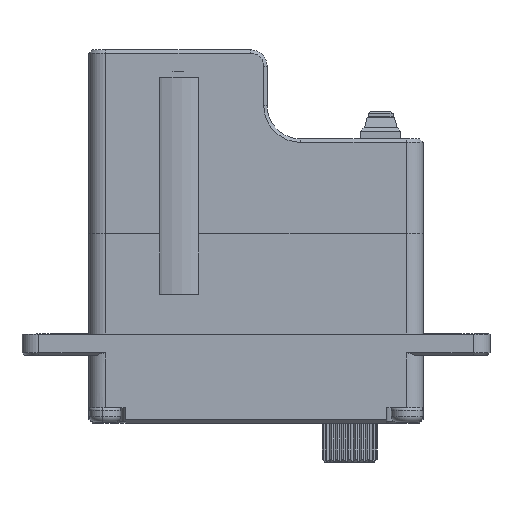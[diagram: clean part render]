
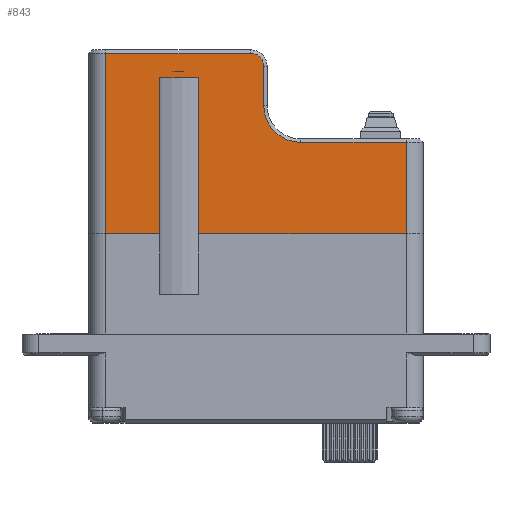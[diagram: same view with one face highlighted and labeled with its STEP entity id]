
A CAD part, left-side view. The second image highlights one B-rep face of the part: STEP entity #843.
In plain terms, the highlighted planar face has unit normal (-1, 0, 0).
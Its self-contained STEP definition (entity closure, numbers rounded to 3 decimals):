
#64 = DIRECTION ( 'NONE',  ( 0., 1., 0. ) ) ;
#422 = DIRECTION ( 'NONE',  ( -1., 0., 0. ) ) ;
#480 = EDGE_CURVE ( 'NONE', #11991, #1186, #16972, .T. ) ;
#524 = DIRECTION ( 'NONE',  ( 0., -1., 0. ) ) ;
#635 = LINE ( 'NONE', #16722, #1736 ) ;
#843 = ADVANCED_FACE ( 'NONE', ( #9729 ), #1145, .T. ) ;
#1008 = VECTOR ( 'NONE', #3597, 1000. ) ;
#1045 = VERTEX_POINT ( 'NONE', #1506 ) ;
#1145 = PLANE ( 'NONE',  #12586 ) ;
#1186 = VERTEX_POINT ( 'NONE', #11357 ) ;
#1253 = ORIENTED_EDGE ( 'NONE', *, *, #2329, .T. ) ;
#1330 = EDGE_CURVE ( 'NONE', #13083, #7219, #15437, .T. ) ;
#1467 = CARTESIAN_POINT ( 'NONE',  ( -97.316, -22.931, 22.06 ) ) ;
#1506 = CARTESIAN_POINT ( 'NONE',  ( -97.316, -12.081, 14.06 ) ) ;
#1598 = CARTESIAN_POINT ( 'NONE',  ( -97.316, -7.581, 22.06 ) ) ;
#1736 = VECTOR ( 'NONE', #4179, 1000. ) ;
#1795 = ORIENTED_EDGE ( 'NONE', *, *, #14769, .T. ) ;
#1888 = ORIENTED_EDGE ( 'NONE', *, *, #12556, .T. ) ;
#1907 = DIRECTION ( 'NONE',  ( 0., -1., 0. ) ) ;
#2006 = CARTESIAN_POINT ( 'NONE',  ( -97.316, -8.781, 17.36 ) ) ;
#2108 = CARTESIAN_POINT ( 'NONE',  ( -97.316, -21.581, 14.06 ) ) ;
#2329 = EDGE_CURVE ( 'NONE', #13748, #13862, #8375, .T. ) ;
#2352 = EDGE_CURVE ( 'NONE', #1045, #11991, #13160, .T. ) ;
#2389 = VECTOR ( 'NONE', #524, 1000. ) ;
#2995 = CARTESIAN_POINT ( 'NONE',  ( -97.316, 0.564, 5.86 ) ) ;
#3277 = CARTESIAN_POINT ( 'NONE',  ( -97.316, -22.931, 14.06 ) ) ;
#3597 = DIRECTION ( 'NONE',  ( 0., 0., 1. ) ) ;
#3638 = DIRECTION ( 'NONE',  ( 1., 0., 0. ) ) ;
#4155 = ORIENTED_EDGE ( 'NONE', *, *, #8153, .T. ) ;
#4174 = VECTOR ( 'NONE', #11303, 1000. ) ;
#4179 = DIRECTION ( 'NONE',  ( 0., 0., 1. ) ) ;
#4211 = ORIENTED_EDGE ( 'NONE', *, *, #4683, .T. ) ;
#4683 = EDGE_CURVE ( 'NONE', #10364, #13748, #7136, .T. ) ;
#5297 = AXIS2_PLACEMENT_3D ( 'NONE', #6462, #3638, #17350 ) ;
#5831 = CARTESIAN_POINT ( 'NONE',  ( -97.316, 0.564, 19.86 ) ) ;
#5896 = EDGE_CURVE ( 'NONE', #12951, #17079, #6662, .T. ) ;
#6462 = CARTESIAN_POINT ( 'NONE',  ( -97.316, -12.081, 17.36 ) ) ;
#6662 = LINE ( 'NONE', #1467, #14523 ) ;
#6748 = VECTOR ( 'NONE', #1907, 1000. ) ;
#7136 = LINE ( 'NONE', #17194, #2389 ) ;
#7219 = VERTEX_POINT ( 'NONE', #11773 ) ;
#7795 = CIRCLE ( 'NONE', #14948, 1.2 ) ;
#7830 = LINE ( 'NONE', #8842, #6748 ) ;
#7861 = ORIENTED_EDGE ( 'NONE', *, *, #11894, .T. ) ;
#7920 = ORIENTED_EDGE ( 'NONE', *, *, #5896, .T. ) ;
#8153 = EDGE_CURVE ( 'NONE', #1186, #12951, #7795, .T. ) ;
#8375 = LINE ( 'NONE', #14808, #1008 ) ;
#8430 = VECTOR ( 'NONE', #14450, 1000. ) ;
#8633 = DIRECTION ( 'NONE',  ( 0., 0., 1. ) ) ;
#8685 = ORIENTED_EDGE ( 'NONE', *, *, #12469, .T. ) ;
#8723 = CARTESIAN_POINT ( 'NONE',  ( -97.316, -7.581, 20.86 ) ) ;
#8814 = DIRECTION ( 'NONE',  ( 0., 1., 0. ) ) ;
#8842 = CARTESIAN_POINT ( 'NONE',  ( -97.316, -22.931, 19.86 ) ) ;
#9582 = ORIENTED_EDGE ( 'NONE', *, *, #1330, .T. ) ;
#9606 = EDGE_LOOP ( 'NONE', ( #8685, #1888, #17235, #13411, #4155, #7920, #1795, #4211, #1253, #14405, #9582, #7861 ) ) ;
#9729 = FACE_OUTER_BOUND ( 'NONE', #9606, .T. ) ;
#10364 = VERTEX_POINT ( 'NONE', #16398 ) ;
#10903 = VERTEX_POINT ( 'NONE', #2108 ) ;
#11303 = DIRECTION ( 'NONE',  ( 0., -1., 0. ) ) ;
#11357 = CARTESIAN_POINT ( 'NONE',  ( -97.316, -8.781, 20.86 ) ) ;
#11526 = LINE ( 'NONE', #3277, #15418 ) ;
#11773 = CARTESIAN_POINT ( 'NONE',  ( -97.316, -2.936, 5.86 ) ) ;
#11894 = EDGE_CURVE ( 'NONE', #7219, #14766, #14813, .T. ) ;
#11991 = VERTEX_POINT ( 'NONE', #2006 ) ;
#12260 = DIRECTION ( 'NONE',  ( 0., 1., 0. ) ) ;
#12377 = DIRECTION ( 'NONE',  ( -1., 0., 0. ) ) ;
#12469 = EDGE_CURVE ( 'NONE', #14766, #10903, #635, .T. ) ;
#12543 = CARTESIAN_POINT ( 'NONE',  ( -97.316, 5.419, 10.595 ) ) ;
#12556 = EDGE_CURVE ( 'NONE', #10903, #1045, #11526, .T. ) ;
#12586 = AXIS2_PLACEMENT_3D ( 'NONE', #14932, #12377, #12260 ) ;
#12717 = CARTESIAN_POINT ( 'NONE',  ( -97.316, -8.781, 20.86 ) ) ;
#12852 = VECTOR ( 'NONE', #8633, 1000. ) ;
#12951 = VERTEX_POINT ( 'NONE', #1598 ) ;
#13083 = VERTEX_POINT ( 'NONE', #15458 ) ;
#13160 = CIRCLE ( 'NONE', #5297, 3.3 ) ;
#13411 = ORIENTED_EDGE ( 'NONE', *, *, #480, .T. ) ;
#13525 = VECTOR ( 'NONE', #16465, 1000. ) ;
#13734 = CARTESIAN_POINT ( 'NONE',  ( -97.316, -21.581, 5.86 ) ) ;
#13748 = VERTEX_POINT ( 'NONE', #2995 ) ;
#13862 = VERTEX_POINT ( 'NONE', #5831 ) ;
#14136 = DIRECTION ( 'NONE',  ( 0., 1., 0. ) ) ;
#14405 = ORIENTED_EDGE ( 'NONE', *, *, #15600, .T. ) ;
#14450 = DIRECTION ( 'NONE',  ( 0., 0., -1. ) ) ;
#14523 = VECTOR ( 'NONE', #64, 1000. ) ;
#14766 = VERTEX_POINT ( 'NONE', #13734 ) ;
#14769 = EDGE_CURVE ( 'NONE', #17079, #10364, #17233, .T. ) ;
#14808 = CARTESIAN_POINT ( 'NONE',  ( -97.316, 0.564, 10.595 ) ) ;
#14813 = LINE ( 'NONE', #15607, #4174 ) ;
#14932 = CARTESIAN_POINT ( 'NONE',  ( -97.316, -22.931, 10.595 ) ) ;
#14948 = AXIS2_PLACEMENT_3D ( 'NONE', #8723, #422, #14136 ) ;
#15418 = VECTOR ( 'NONE', #8814, 1000. ) ;
#15437 = LINE ( 'NONE', #17273, #8430 ) ;
#15458 = CARTESIAN_POINT ( 'NONE',  ( -97.316, -2.936, 19.86 ) ) ;
#15600 = EDGE_CURVE ( 'NONE', #13862, #13083, #7830, .T. ) ;
#15607 = CARTESIAN_POINT ( 'NONE',  ( -97.316, -22.931, 5.86 ) ) ;
#16398 = CARTESIAN_POINT ( 'NONE',  ( -97.316, 5.419, 5.86 ) ) ;
#16465 = DIRECTION ( 'NONE',  ( 0., 0., -1. ) ) ;
#16722 = CARTESIAN_POINT ( 'NONE',  ( -97.316, -21.581, 10.595 ) ) ;
#16799 = CARTESIAN_POINT ( 'NONE',  ( -97.316, 5.419, 22.06 ) ) ;
#16972 = LINE ( 'NONE', #12717, #12852 ) ;
#17079 = VERTEX_POINT ( 'NONE', #16799 ) ;
#17194 = CARTESIAN_POINT ( 'NONE',  ( -97.316, -22.931, 5.86 ) ) ;
#17233 = LINE ( 'NONE', #12543, #13525 ) ;
#17235 = ORIENTED_EDGE ( 'NONE', *, *, #2352, .T. ) ;
#17273 = CARTESIAN_POINT ( 'NONE',  ( -97.316, -2.936, 10.595 ) ) ;
#17350 = DIRECTION ( 'NONE',  ( 0., 1., 0. ) ) ;
